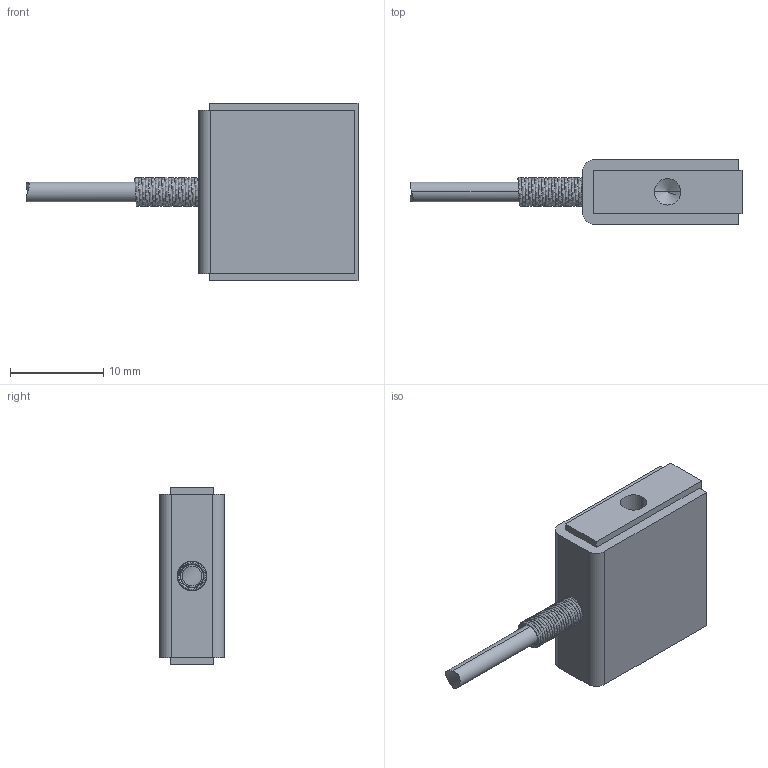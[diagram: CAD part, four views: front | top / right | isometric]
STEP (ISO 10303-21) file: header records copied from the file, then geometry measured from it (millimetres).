
FILE_DESCRIPTION (( 'STEP AP203' ), '1' );
FILE_NAME ('Interface SMTM-5 thru -50.STEP', '2014-07-29T16:48:43', ( '' ), ( '' ), 'SwSTEP 2.0', 'SolidWorks 2013', '' );
FILE_SCHEMA (( 'CONFIG_CONTROL_DESIGN' ));
Length unit declared in the file: inch
Products named in the file (1): Interface SMTM-5 thru -50
Bounding box: 35.69 x 6.96 x 19.05 mm (x, y, z)
Volume: 2218.5 mm3; surface area: 1474.4 mm2
Topology: 1 solids, 1 shells, 30 faces, 74 edges, 46 vertices
Faces by surface type: plane 15, cylinder 9, cone 4, bspline 2
Entity records: 4029 total; most frequent: CARTESIAN_POINT 3271, ORIENTED_EDGE 140, DIRECTION 134, EDGE_CURVE 70, VECTOR 48, LINE 48, VERTEX_POINT 46, AXIS2_PLACEMENT_3D 43
